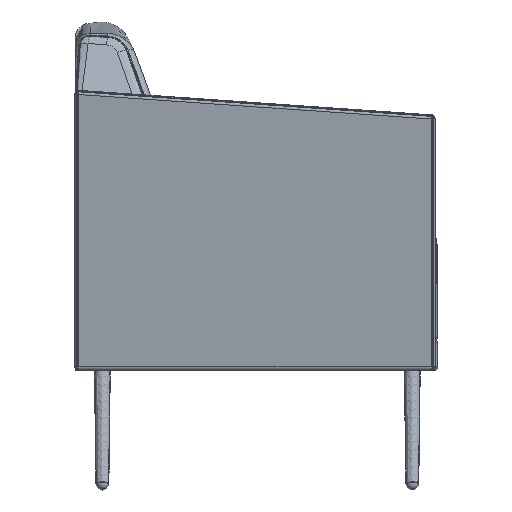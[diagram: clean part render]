
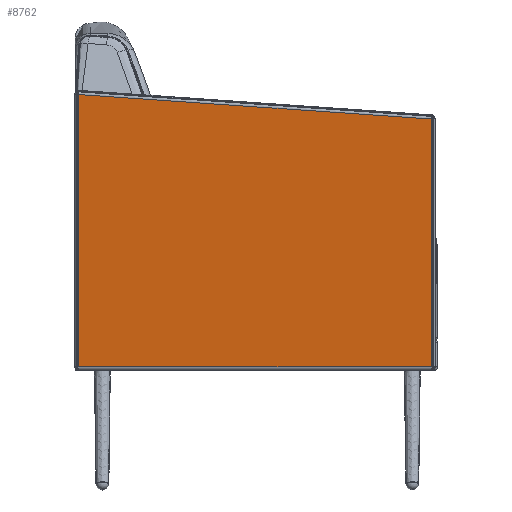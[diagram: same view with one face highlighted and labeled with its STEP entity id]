
A CAD part, left-side view. The second image highlights one B-rep face of the part: STEP entity #8762.
In plain terms, the highlighted planar face has unit normal (-0.993, 0, -0.119).
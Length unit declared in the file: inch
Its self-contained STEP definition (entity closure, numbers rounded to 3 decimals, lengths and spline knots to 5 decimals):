
#1148=PLANE('',#9628);
#1329=LINE('',#22470,#1600);
#1344=LINE('',#22680,#1615);
#1351=LINE('',#22711,#1622);
#1353=LINE('',#22715,#1624);
#1600=VECTOR('',#11049,0.3937);
#1615=VECTOR('',#11176,0.3937);
#1622=VECTOR('',#11203,0.3937);
#1624=VECTOR('',#11209,0.3937);
#2133=FACE_OUTER_BOUND('',#2770,.T.);
#2770=EDGE_LOOP('',(#7199,#7200,#7201,#7202));
#3947=VERTEX_POINT('',#22454);
#3951=VERTEX_POINT('',#22468);
#3991=VERTEX_POINT('',#22675);
#3992=VERTEX_POINT('',#22679);
#5027=EDGE_CURVE('',#3947,#3951,#1329,.T.);
#5087=EDGE_CURVE('',#3992,#3991,#1344,.T.);
#5101=EDGE_CURVE('',#3991,#3947,#1351,.T.);
#5103=EDGE_CURVE('',#3951,#3992,#1353,.T.);
#7199=ORIENTED_EDGE('',*,*,#5101,.T.);
#7200=ORIENTED_EDGE('',*,*,#5027,.T.);
#7201=ORIENTED_EDGE('',*,*,#5103,.T.);
#7202=ORIENTED_EDGE('',*,*,#5087,.T.);
#8762=ADVANCED_FACE('',(#2133),#1148,.F.);
#9628=AXIS2_PLACEMENT_3D('',#22714,#11207,#11208);
#11049=DIRECTION('',(0.,-1.,0.));
#11176=DIRECTION('',(-0.008,0.998,0.069));
#11203=DIRECTION('',(0.119,0.,-0.993));
#11207=DIRECTION('center_axis',(0.993,0.,
0.119));
#11208=DIRECTION('ref_axis',(0.119,0.,-0.993));
#11209=DIRECTION('',(-0.119,0.,0.993));
#22454=CARTESIAN_POINT('',(0.01832,1.57693,7.69596));
#22468=CARTESIAN_POINT('',(0.01832,-21.81007,7.69596));
#22470=CARTESIAN_POINT('',(0.01832,1.82693,7.69596));
#22675=CARTESIAN_POINT('',(-2.14445,1.57693,25.75805));
#22679=CARTESIAN_POINT('',(-1.94966,-21.81007,24.13132));
#22680=CARTESIAN_POINT('',(-2.14126,1.19436,25.73144));
#22711=CARTESIAN_POINT('',(-0.50083,1.57693,12.03156));
#22714=CARTESIAN_POINT('Origin',(0.04469,1.82693,7.47569));
#22715=CARTESIAN_POINT('',(-0.45109,-21.81007,11.61618));
